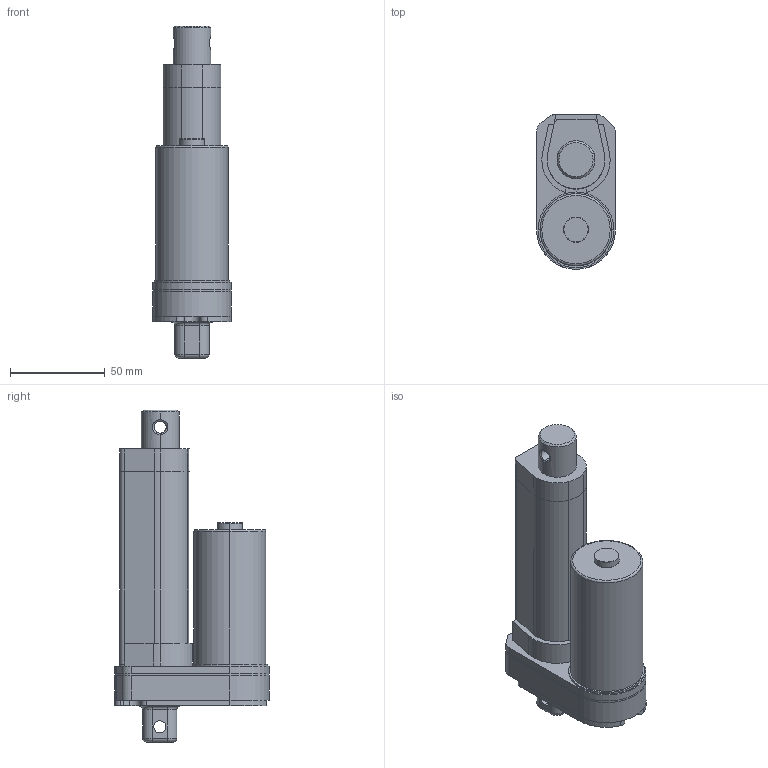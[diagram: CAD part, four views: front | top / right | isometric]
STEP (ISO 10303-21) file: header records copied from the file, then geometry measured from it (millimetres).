
FILE_DESCRIPTION (( 'STEP AP203' ), '1' );
FILE_NAME ('la350.step', '2014-03-28T03:52:55', ( 'development' ), ( '' ), 'SwSTEP 2.0', 'SolidWorks 2013', '' );
FILE_SCHEMA (( 'CONFIG_CONTROL_DESIGN' ));
Length unit declared in the file: millimetre
Products named in the file (1): la350
Bounding box: 41.55 x 81.55 x 175 mm (x, y, z)
Surface area: 49506.7 mm2 (no closed solid volume)
Topology: 0 solids, 6 shells, 161 faces, 439 edges, 288 vertices
Faces by surface type: cylinder 82, plane 59, torus 14, bspline 4, cone 2
Entity records: 5620 total; most frequent: CARTESIAN_POINT 1385, DIRECTION 940, ORIENTED_EDGE 800, EDGE_CURVE 439, AXIS2_PLACEMENT_3D 355, VERTEX_POINT 288, VECTOR 230, LINE 230
